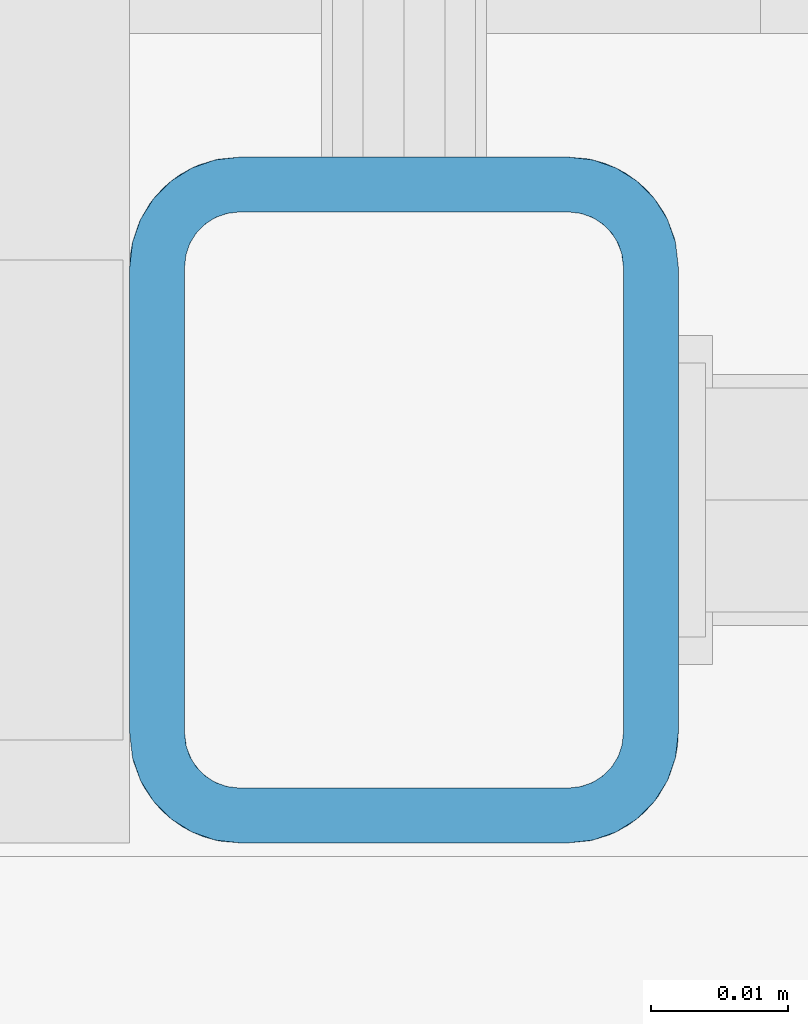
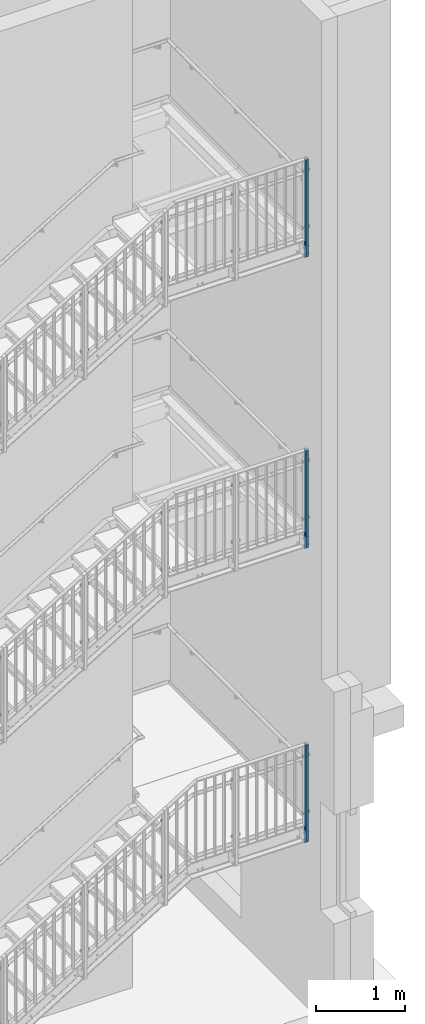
# One storey, part 22 of 410: 3 columns, 24 openings.
"""IFC2X3 building model written with IfcOpenShell, lengths in millimetres."""

from ifc_helpers import new_model, entity, si_unit, converted_unit, frame, frame_2d, origin, origin_with_axes, origin_2d, place, context, project, spatial, hollow_rectangle, circle, extrude, clip, halfspace, material, element, save


model = new_model("IFC2X3")

# Units and contexts
model_context = context("Model", 3, precision=1e-09, world=origin_with_axes())
ifc_project = project(units=[si_unit("LENGTHUNIT", "METRE", prefix="MILLI"), si_unit("AREAUNIT", "SQUARE_METRE"), si_unit("VOLUMEUNIT", "CUBIC_METRE"), converted_unit("PLANEANGLEUNIT", "DEGREE", entity("IfcPlaneAngleMeasure", 0.01745329), si_unit("PLANEANGLEUNIT", "RADIAN"), dimensions=[0, 0, 0, 0, 0, 0, 0])], contexts=[model_context])

# Site, building, storey
site_placement = place(None, origin_with_axes())
site = spatial("IfcSite", under=ifc_project, at=site_placement, Name="mKR Teilneubau & Sanierung BA1 - Ostfildern", CompositionType="ELEMENT")
building_placement = place(site_placement, origin_with_axes())
building = spatial("IfcBuilding", under=site, at=building_placement, Name="Struktur 1", CompositionType="ELEMENT")
storey_placement = place(building_placement, origin_with_axes())
storey = spatial("IfcBuildingStorey", under=building, at=storey_placement, Name="Default Storey", CompositionType="ELEMENT", Elevation=0.0)

# Column, openings
ifc_material = material(Name="S235JR")
column_1_placement = place(None, frame((3205.001468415, 15405.999999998, 7020.0), z_axis=(0.0, 0.0, 1.0), x_axis=(-1.0, 0.0, 0.0)))
column_1 = element("IfcColumn", 1, at=column_1_placement, inside=storey, material=ifc_material, Name="-", ObjectType="-", context=model_context, shape_type="Clipping", body=[
    clip(extrude(hollow_rectangle(XDim=40.0, YDim=50.0, WallThickness=4.0, InnerFilletRadius=4.0, OuterFilletRadius=8.0, at=origin_2d()), origin(), (0.0, 0.0, -1.0), 1444.603221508), halfspace(frame((3205.001468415, 7677.073420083, 4018.051089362), z_axis=(0.0, -0.573576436, 0.819152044), x_axis=(1.0, 0.0, 0.0)), True)),
])
opening_1_placement = place(column_1_placement, frame((-20.5, 0.0, -1265.0), z_axis=(1.0, 0.0, 0.0), x_axis=(0.0, 1.0, 0.0)))
element("IfcOpeningElement", 2, at=opening_1_placement, cuts=column_1, ObjectType="Opening", context=model_context, shape_type="SweptSolid", body=[
    extrude(circle(Radius=7.001, at=frame_2d((0.0, 50.0), x_axis=(1.0, 0.0))), origin(), (0.0, 0.0, 1.0), 5.0),
])
opening_2_placement = place(column_1_placement, frame((-20.5, 0.0, -1265.0), z_axis=(1.0, 0.0, 0.0), x_axis=(0.0, 1.0, 0.0)))
element("IfcOpeningElement", 3, at=opening_2_placement, cuts=column_1, ObjectType="Opening", context=model_context, shape_type="SweptSolid", body=[
    extrude(circle(Radius=7.001, at=frame_2d((0.0, -50.0), x_axis=(1.0, 0.0))), origin(), (0.0, 0.0, 1.0), 5.0),
])
opening_3_placement = place(column_1_placement, frame((15.5, 0.0, -1265.0), z_axis=(1.0, 0.0, 0.0), x_axis=(0.0, 1.0, 0.0)))
element("IfcOpeningElement", 4, at=opening_3_placement, cuts=column_1, ObjectType="Opening", context=model_context, shape_type="SweptSolid", body=[
    extrude(circle(Radius=7.001, at=frame_2d((0.0, 50.0), x_axis=(1.0, 0.0))), origin(), (0.0, 0.0, 1.0), 5.0),
])
opening_4_placement = place(column_1_placement, frame((15.5, 0.0, -1265.0), z_axis=(1.0, 0.0, 0.0), x_axis=(0.0, 1.0, 0.0)))
element("IfcOpeningElement", 5, at=opening_4_placement, cuts=column_1, ObjectType="Opening", context=model_context, shape_type="SweptSolid", body=[
    extrude(circle(Radius=7.001, at=frame_2d((0.0, -50.0), x_axis=(1.0, 0.0))), origin(), (0.0, 0.0, 1.0), 5.0),
])
opening_5_placement = place(column_1_placement, frame((15.5, -6.501, -945.0), z_axis=(-1.0, 0.0, 0.0), x_axis=(0.0, -1.0, 0.0)))
element("IfcOpeningElement", 6, at=opening_5_placement, cuts=column_1, ObjectType="Opening", context=model_context, shape_type="SweptSolid", body=[
    extrude(circle(Radius=6.501, at=frame_2d((-6.501, 0.0), x_axis=(1.0, 0.0))), origin(), (0.0, 0.0, -1.0), 5.0),
])
opening_6_placement = place(column_1_placement, frame((15.5, -6.501, -160.0), z_axis=(-1.0, 0.0, 0.0), x_axis=(0.0, -1.0, 0.0)))
element("IfcOpeningElement", 7, at=opening_6_placement, cuts=column_1, ObjectType="Opening", context=model_context, shape_type="SweptSolid", body=[
    extrude(circle(Radius=6.501, at=frame_2d((-6.501, 0.0), x_axis=(1.0, 0.0))), origin(), (0.0, 0.0, -1.0), 5.0),
])
opening_7_placement = place(column_1_placement, frame((-20.5, -6.501, -945.0), z_axis=(-1.0, 0.0, 0.0), x_axis=(0.0, -1.0, 0.0)))
element("IfcOpeningElement", 8, at=opening_7_placement, cuts=column_1, ObjectType="Opening", context=model_context, shape_type="SweptSolid", body=[
    extrude(circle(Radius=6.501, at=frame_2d((-6.501, 0.0), x_axis=(1.0, 0.0))), origin(), (0.0, 0.0, -1.0), 5.0),
])
opening_8_placement = place(column_1_placement, frame((-20.5, -6.501, -160.0), z_axis=(-1.0, 0.0, 0.0), x_axis=(0.0, -1.0, 0.0)))
element("IfcOpeningElement", 9, at=opening_8_placement, cuts=column_1, ObjectType="Opening", context=model_context, shape_type="SweptSolid", body=[
    extrude(circle(Radius=6.501, at=frame_2d((-6.501, 0.0), x_axis=(1.0, 0.0))), origin(), (0.0, 0.0, -1.0), 5.0),
])

column_2_placement = place(None, frame((3205.001468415, 15405.999999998, 3008.0434785), z_axis=(0.0, 0.0, 1.0), x_axis=(-1.0, 0.0, 0.0)))
column_2 = element("IfcColumn", 10, at=column_2_placement, inside=storey, material=ifc_material, Name="-", ObjectType="-", context=model_context, shape_type="Clipping", body=[
    clip(extrude(hollow_rectangle(XDim=40.0, YDim=50.0, WallThickness=4.0, InnerFilletRadius=4.0, OuterFilletRadius=8.0, at=origin_2d()), origin(), (0.0, 0.0, -1.0), 1444.603221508), halfspace(frame((3205.001468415, 9562.076389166, 5337.944377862), z_axis=(0.0, -0.573576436, 0.819152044), x_axis=(1.0, 0.0, 0.0)), True)),
])
opening_9_placement = place(column_2_placement, frame((-20.5, 0.0, -1265.0), z_axis=(1.0, 0.0, 0.0), x_axis=(0.0, 1.0, 0.0)))
element("IfcOpeningElement", 11, at=opening_9_placement, cuts=column_2, ObjectType="Opening", context=model_context, shape_type="SweptSolid", body=[
    extrude(circle(Radius=7.001, at=frame_2d((0.0, 50.0), x_axis=(1.0, 0.0))), origin(), (0.0, 0.0, 1.0), 5.0),
])
opening_10_placement = place(column_2_placement, frame((-20.5, 0.0, -1265.0), z_axis=(1.0, 0.0, 0.0), x_axis=(0.0, 1.0, 0.0)))
element("IfcOpeningElement", 12, at=opening_10_placement, cuts=column_2, ObjectType="Opening", context=model_context, shape_type="SweptSolid", body=[
    extrude(circle(Radius=7.001, at=frame_2d((0.0, -50.0), x_axis=(1.0, 0.0))), origin(), (0.0, 0.0, 1.0), 5.0),
])
opening_11_placement = place(column_2_placement, frame((15.5, 0.0, -1265.0), z_axis=(1.0, 0.0, 0.0), x_axis=(0.0, 1.0, 0.0)))
element("IfcOpeningElement", 13, at=opening_11_placement, cuts=column_2, ObjectType="Opening", context=model_context, shape_type="SweptSolid", body=[
    extrude(circle(Radius=7.001, at=frame_2d((0.0, 50.0), x_axis=(1.0, 0.0))), origin(), (0.0, 0.0, 1.0), 5.0),
])
opening_12_placement = place(column_2_placement, frame((15.5, 0.0, -1265.0), z_axis=(1.0, 0.0, 0.0), x_axis=(0.0, 1.0, 0.0)))
element("IfcOpeningElement", 14, at=opening_12_placement, cuts=column_2, ObjectType="Opening", context=model_context, shape_type="SweptSolid", body=[
    extrude(circle(Radius=7.001, at=frame_2d((0.0, -50.0), x_axis=(1.0, 0.0))), origin(), (0.0, 0.0, 1.0), 5.0),
])
opening_13_placement = place(column_2_placement, frame((15.5, -6.501, -945.0), z_axis=(-1.0, 0.0, 0.0), x_axis=(0.0, -1.0, 0.0)))
element("IfcOpeningElement", 15, at=opening_13_placement, cuts=column_2, ObjectType="Opening", context=model_context, shape_type="SweptSolid", body=[
    extrude(circle(Radius=6.501, at=frame_2d((-6.501, 0.0), x_axis=(1.0, 0.0))), origin(), (0.0, 0.0, -1.0), 5.0),
])
opening_14_placement = place(column_2_placement, frame((15.5, -6.501, -160.0), z_axis=(-1.0, 0.0, 0.0), x_axis=(0.0, -1.0, 0.0)))
element("IfcOpeningElement", 16, at=opening_14_placement, cuts=column_2, ObjectType="Opening", context=model_context, shape_type="SweptSolid", body=[
    extrude(circle(Radius=6.501, at=frame_2d((-6.501, 0.0), x_axis=(1.0, 0.0))), origin(), (0.0, 0.0, -1.0), 5.0),
])
opening_15_placement = place(column_2_placement, frame((-20.5, -6.501, -945.0), z_axis=(-1.0, 0.0, 0.0), x_axis=(0.0, -1.0, 0.0)))
element("IfcOpeningElement", 17, at=opening_15_placement, cuts=column_2, ObjectType="Opening", context=model_context, shape_type="SweptSolid", body=[
    extrude(circle(Radius=6.501, at=frame_2d((-6.501, 0.0), x_axis=(1.0, 0.0))), origin(), (0.0, 0.0, -1.0), 5.0),
])
opening_16_placement = place(column_2_placement, frame((-20.5, -6.501, -160.0), z_axis=(-1.0, 0.0, 0.0), x_axis=(0.0, -1.0, 0.0)))
element("IfcOpeningElement", 18, at=opening_16_placement, cuts=column_2, ObjectType="Opening", context=model_context, shape_type="SweptSolid", body=[
    extrude(circle(Radius=6.501, at=frame_2d((-6.501, 0.0), x_axis=(1.0, 0.0))), origin(), (0.0, 0.0, -1.0), 5.0),
])

column_3_placement = place(None, frame((3205.001468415, 15405.999999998, -1050.6), z_axis=(0.0, 0.0, 1.0), x_axis=(-1.0, 0.0, 0.0)))
column_3 = element("IfcColumn", 19, at=column_3_placement, inside=storey, material=ifc_material, Name="-", ObjectType="-", context=model_context, shape_type="Clipping", body=[
    clip(extrude(hollow_rectangle(XDim=40.0, YDim=50.0, WallThickness=4.0, InnerFilletRadius=4.0, OuterFilletRadius=8.0, at=origin_2d()), origin(), (0.0, 0.0, -1.0), 1444.603221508), halfspace(frame((3205.001468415, 11469.01505274, 6673.197205), z_axis=(0.0, -0.573576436, 0.819152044), x_axis=(1.0, 0.0, 0.0)), True)),
])
opening_17_placement = place(column_3_placement, frame((-20.5, 0.0, -1265.0), z_axis=(1.0, 0.0, 0.0), x_axis=(0.0, 1.0, 0.0)))
element("IfcOpeningElement", 20, at=opening_17_placement, cuts=column_3, ObjectType="Opening", context=model_context, shape_type="SweptSolid", body=[
    extrude(circle(Radius=7.001, at=frame_2d((0.0, 50.0), x_axis=(1.0, 0.0))), origin(), (0.0, 0.0, 1.0), 5.0),
])
opening_18_placement = place(column_3_placement, frame((-20.5, 0.0, -1265.0), z_axis=(1.0, 0.0, 0.0), x_axis=(0.0, 1.0, 0.0)))
element("IfcOpeningElement", 21, at=opening_18_placement, cuts=column_3, ObjectType="Opening", context=model_context, shape_type="SweptSolid", body=[
    extrude(circle(Radius=7.001, at=frame_2d((0.0, -50.0), x_axis=(1.0, 0.0))), origin(), (0.0, 0.0, 1.0), 5.0),
])
opening_19_placement = place(column_3_placement, frame((15.5, 0.0, -1265.0), z_axis=(1.0, 0.0, 0.0), x_axis=(0.0, 1.0, 0.0)))
element("IfcOpeningElement", 22, at=opening_19_placement, cuts=column_3, ObjectType="Opening", context=model_context, shape_type="SweptSolid", body=[
    extrude(circle(Radius=7.001, at=frame_2d((0.0, 50.0), x_axis=(1.0, 0.0))), origin(), (0.0, 0.0, 1.0), 5.0),
])
opening_20_placement = place(column_3_placement, frame((15.5, 0.0, -1265.0), z_axis=(1.0, 0.0, 0.0), x_axis=(0.0, 1.0, 0.0)))
element("IfcOpeningElement", 23, at=opening_20_placement, cuts=column_3, ObjectType="Opening", context=model_context, shape_type="SweptSolid", body=[
    extrude(circle(Radius=7.001, at=frame_2d((0.0, -50.0), x_axis=(1.0, 0.0))), origin(), (0.0, 0.0, 1.0), 5.0),
])
opening_21_placement = place(column_3_placement, frame((15.5, -6.501, -945.0), z_axis=(-1.0, 0.0, 0.0), x_axis=(0.0, -1.0, 0.0)))
element("IfcOpeningElement", 24, at=opening_21_placement, cuts=column_3, ObjectType="Opening", context=model_context, shape_type="SweptSolid", body=[
    extrude(circle(Radius=6.501, at=frame_2d((-6.501, 0.0), x_axis=(1.0, 0.0))), origin(), (0.0, 0.0, -1.0), 5.0),
])
opening_22_placement = place(column_3_placement, frame((15.5, -6.501, -160.0), z_axis=(-1.0, 0.0, 0.0), x_axis=(0.0, -1.0, 0.0)))
element("IfcOpeningElement", 25, at=opening_22_placement, cuts=column_3, ObjectType="Opening", context=model_context, shape_type="SweptSolid", body=[
    extrude(circle(Radius=6.501, at=frame_2d((-6.501, 0.0), x_axis=(1.0, 0.0))), origin(), (0.0, 0.0, -1.0), 5.0),
])
opening_23_placement = place(column_3_placement, frame((-20.5, -6.501, -945.0), z_axis=(-1.0, 0.0, 0.0), x_axis=(0.0, -1.0, 0.0)))
element("IfcOpeningElement", 26, at=opening_23_placement, cuts=column_3, ObjectType="Opening", context=model_context, shape_type="SweptSolid", body=[
    extrude(circle(Radius=6.501, at=frame_2d((-6.501, 0.0), x_axis=(1.0, 0.0))), origin(), (0.0, 0.0, -1.0), 5.0),
])
opening_24_placement = place(column_3_placement, frame((-20.5, -6.501, -160.0), z_axis=(-1.0, 0.0, 0.0), x_axis=(0.0, -1.0, 0.0)))
element("IfcOpeningElement", 27, at=opening_24_placement, cuts=column_3, ObjectType="Opening", context=model_context, shape_type="SweptSolid", body=[
    extrude(circle(Radius=6.501, at=frame_2d((-6.501, 0.0), x_axis=(1.0, 0.0))), origin(), (0.0, 0.0, -1.0), 5.0),
])

save(model, "model.ifc")
